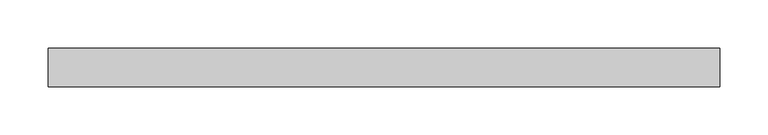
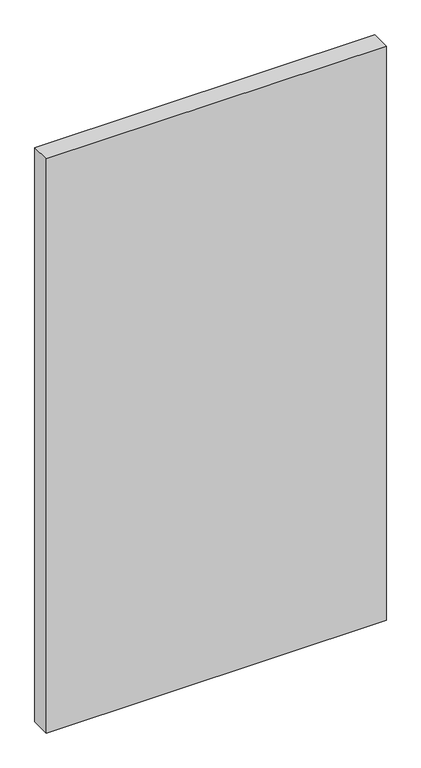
"""IFC4 building model written with IfcOpenShell, lengths in millimetres: plate geometry, Vitré."""

from ifc_helpers import new_model, si_unit, origin, origin_with_axes, place, context, project, spatial, polyline, outline, extrude, source, transform, mapped, element, save


def plate_c037573b(model_context):
    return source(origin(), model_context, "Body", "SweptSolid", [
        extrude(outline(polyline([(-348.9999998, -20.0), (-348.9999998, 20.0), (348.9999998, 20.0), (348.9999998, -20.0), (-348.9999998, -20.0)])), origin_with_axes(), (0.0, 0.0, 1.0), 1244.9697414),
    ])


if __name__ == "__main__":
    model = new_model("IFC4")
    model_context = context("Model", 3, world=origin())
    ifc_project = project(units=[si_unit("LENGTHUNIT", "METRE", prefix="MILLI")], contexts=[model_context])
    site = spatial("IfcSite", under=ifc_project)
    building = spatial("IfcBuilding", under=site)
    placement = place(None, origin())
    plate_shape = plate_c037573b(model_context)
    element("IfcPlate", 1, ObjectType="Vitré", at=placement, inside=building, context=model_context, shape_type="MappedRepresentation", body=[
        mapped(plate_shape, transform((0.0, 0.0, 0.0), x_axis=(1.0, 0.0, 0.0), y_axis=(0.0, 1.0, 0.0), z_axis=(0.0, 0.0, 1.0))),
    ])
    save(model, "model.ifc")
